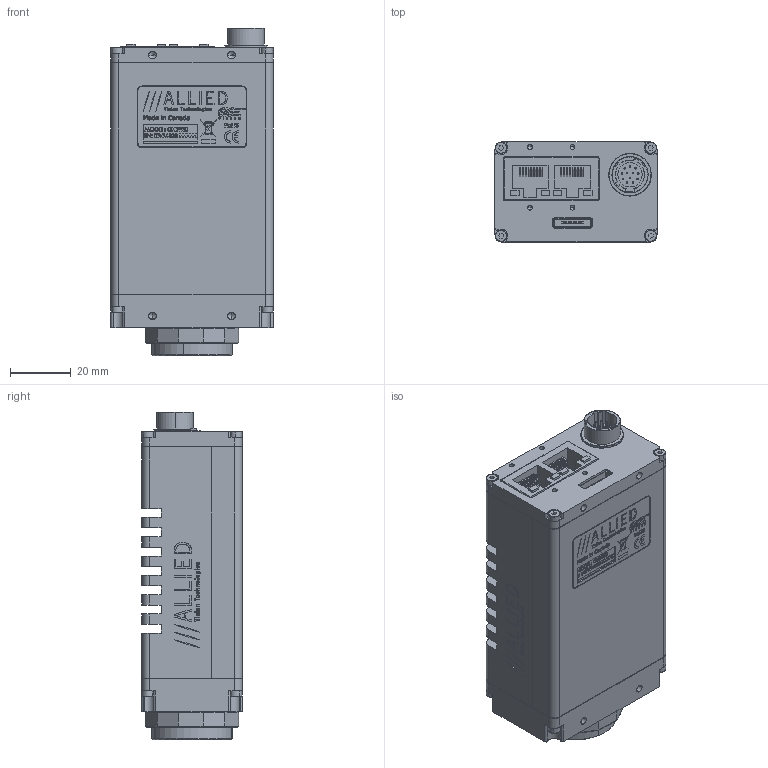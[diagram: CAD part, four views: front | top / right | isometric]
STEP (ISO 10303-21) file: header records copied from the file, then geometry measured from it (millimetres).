
FILE_DESCRIPTION (( 'STEP AP214' ), '1' );
FILE_NAME ('GX1920.STEP', '2013-08-07T18:22:43', ( '' ), ( '' ), 'SwSTEP 2.0', 'SolidWorks 2013', '' );
FILE_SCHEMA (( 'AUTOMOTIVE_DESIGN' ));
Length unit declared in the file: millimetre
Products named in the file (22): 110097A-GX BACK PLATE; 260034-HIROSE HR10A-10R-12PB; 200114B-GX MAIN PCBA FOR SONY; 260043-HALO HFJ12-1G16ER-L12RL; 200115B-GX POWER PCBA FOR SONY; 260048-HIROSE 3260-8S3; 100179A - GX1920 FRONT ASSY; 110100B-GX TOP COVER-THERMAL_Finished; 110003AC-CV CMOUNT RING; 140061-SCREW SKT CAP M2x8 SS; 110103A-GX CCD GASKET; 110118A-GX FRONT PLATE ICX674; GX1920; 110031A-B EC-CCD LOCKING RING; 220182-SONY ICX674ALG; SONY ICX674 WINDOW; SONY ICX674 BODY; 740102B-GX SERIES LABEL; 740120B-GX1920 LABEL PRINT; 100172D - GX BODY ASSY SONY-THERMAL; 110099B-GX BOTTOM COVER-THERMAL_Finished; 100171A - GX BACK ASSY
Assembly tree (28 placements, depth 4):
  GX1920
    140061-SCREW SKT CAP M2x8 SS  x4
    100172D - GX BODY ASSY SONY-THERMAL
      110100B-GX TOP COVER-THERMAL_Finished
      200115B-GX POWER PCBA FOR SONY
        260048-HIROSE 3260-8S3
      200114B-GX MAIN PCBA FOR SONY
        260043-HALO HFJ12-1G16ER-L12RL
      140061-SCREW SKT CAP M2x8 SS  x4
      100171A - GX BACK ASSY
        260034-HIROSE HR10A-10R-12PB
        110097A-GX BACK PLATE
      110099B-GX BOTTOM COVER-THERMAL_Finished
    740120B-GX1920 LABEL PRINT
    740102B-GX SERIES LABEL
    100179A - GX1920 FRONT ASSY
      220182-SONY ICX674ALG
        SONY ICX674 BODY
        SONY ICX674 WINDOW
      110031A-B EC-CCD LOCKING RING
      110118A-GX FRONT PLATE ICX674
      110103A-GX CCD GASKET
      110003AC-CV CMOUNT RING
Bounding box: 53.39 x 33.02 x 107.77 mm (x, y, z)
Volume: 80217.6 mm3; surface area: 72245 mm2
Topology: 67 solids, 67 shells, 4066 faces, 10541 edges, 6856 vertices
Faces by surface type: plane 2245, bspline 890, cylinder 691, cone 240
Entity records: 196445 total; most frequent: CARTESIAN_POINT 60316, ORIENTED_EDGE 20306, DIRECTION 16043, EDGE_CURVE 10153, LINE 6909, VECTOR 6909, VERTEX_POINT 6688, AXIS2_PLACEMENT_3D 4567
